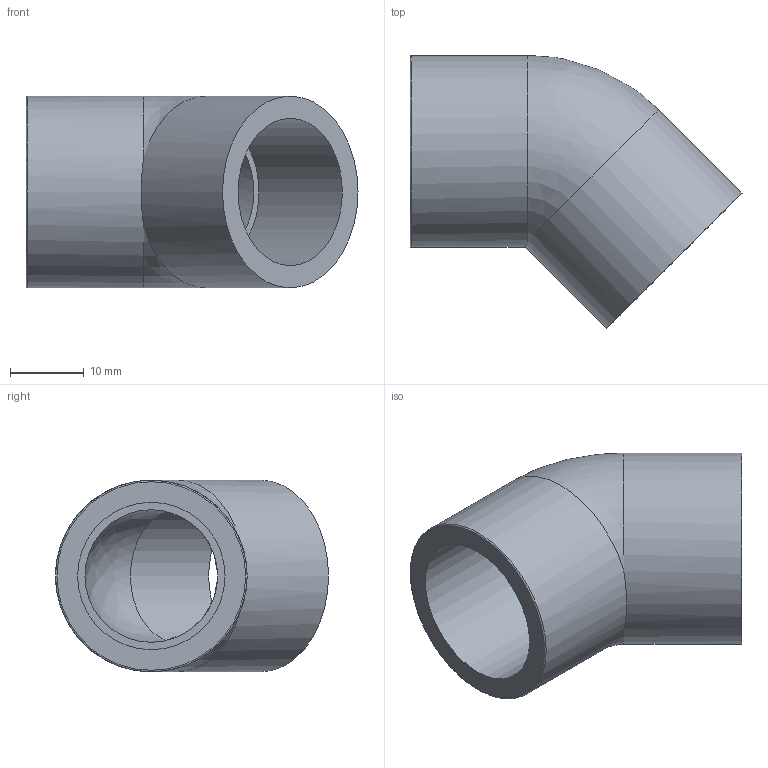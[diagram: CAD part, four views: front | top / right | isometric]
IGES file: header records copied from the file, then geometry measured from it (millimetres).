
Global section: file name: 054500020.ipt; native system: Autodesk Inventor 2015; preprocessor: unknown; author: KIM; date: 20171207.165602; units: millimetre
Bounding box: 45.04 x 37.04 x 26 mm (x, y, z)
Volume: 9606.3 mm3; surface area: 6482.1 mm2
Topology: 1 solids, 1 shells, 11 faces, 26 edges, 17 vertices
Faces by surface type: revolution 4, plane 4, cylinder 2, bspline 1
Full cylindrical faces by diameter (mm): 26 x2
